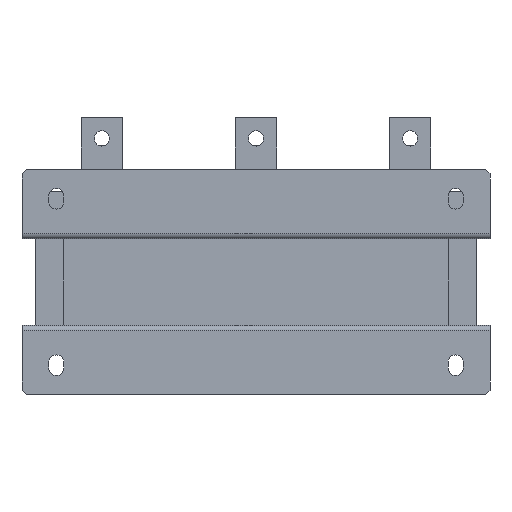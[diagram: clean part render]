
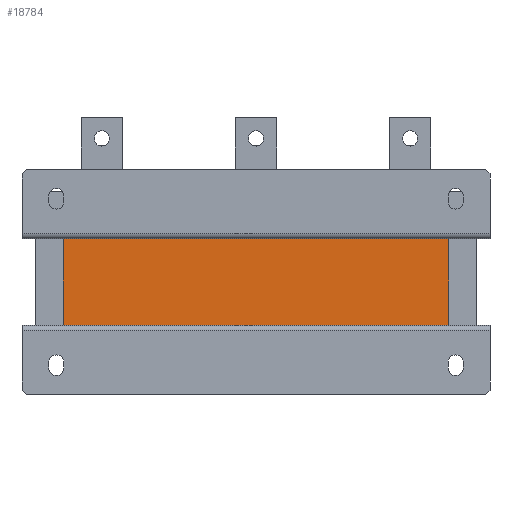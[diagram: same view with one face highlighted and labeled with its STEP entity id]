
A CAD part, front view. The second image highlights one B-rep face of the part: STEP entity #18784.
In plain terms, the highlighted planar face has unit normal (0, -1, 0).
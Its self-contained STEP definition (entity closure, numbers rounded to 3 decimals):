
#1887=LINE('',#30095,#3595);
#1955=LINE('',#30266,#3663);
#2065=LINE('',#30569,#3773);
#2067=LINE('',#30573,#3775);
#3595=VECTOR('',#23963,10.);
#3663=VECTOR('',#24147,10.);
#3773=VECTOR('',#24473,10.);
#3775=VECTOR('',#24479,10.);
#4501=PLANE('',#20165);
#5941=FACE_OUTER_BOUND('',#7198,.T.);
#7198=EDGE_LOOP('',(#16435,#16436,#16437,#16438));
#9241=VERTEX_POINT('',#30082);
#9246=VERTEX_POINT('',#30093);
#9286=VERTEX_POINT('',#30253);
#9291=VERTEX_POINT('',#30264);
#11522=EDGE_CURVE('',#9246,#9241,#1887,.T.);
#11607=EDGE_CURVE('',#9291,#9286,#1955,.T.);
#11758=EDGE_CURVE('',#9291,#9241,#2065,.T.);
#11760=EDGE_CURVE('',#9246,#9286,#2067,.T.);
#16435=ORIENTED_EDGE('',*,*,#11760,.T.);
#16436=ORIENTED_EDGE('',*,*,#11607,.F.);
#16437=ORIENTED_EDGE('',*,*,#11758,.T.);
#16438=ORIENTED_EDGE('',*,*,#11522,.F.);
#18784=ADVANCED_FACE('',(#5941),#4501,.T.);
#20165=AXIS2_PLACEMENT_3D('',#30595,#24514,#24515);
#23963=DIRECTION('',(-1.,0.,0.));
#24147=DIRECTION('',(1.,0.,0.));
#24473=DIRECTION('',(0.,0.,-1.));
#24479=DIRECTION('',(0.,0.,1.));
#24514=DIRECTION('center_axis',(0.,-1.,0.));
#24515=DIRECTION('ref_axis',(1.,0.,0.));
#30082=CARTESIAN_POINT('',(-140.,-137.3,-31.5));
#30093=CARTESIAN_POINT('',(140.,-137.3,-31.5));
#30095=CARTESIAN_POINT('',(140.,-137.3,-31.5));
#30253=CARTESIAN_POINT('',(140.,-137.3,31.5));
#30264=CARTESIAN_POINT('',(-140.,-137.3,31.5));
#30266=CARTESIAN_POINT('',(140.,-137.3,31.5));
#30569=CARTESIAN_POINT('',(-140.,-137.3,0.));
#30573=CARTESIAN_POINT('',(140.,-137.3,0.));
#30595=CARTESIAN_POINT('Origin',(-140.,-137.3,0.));
